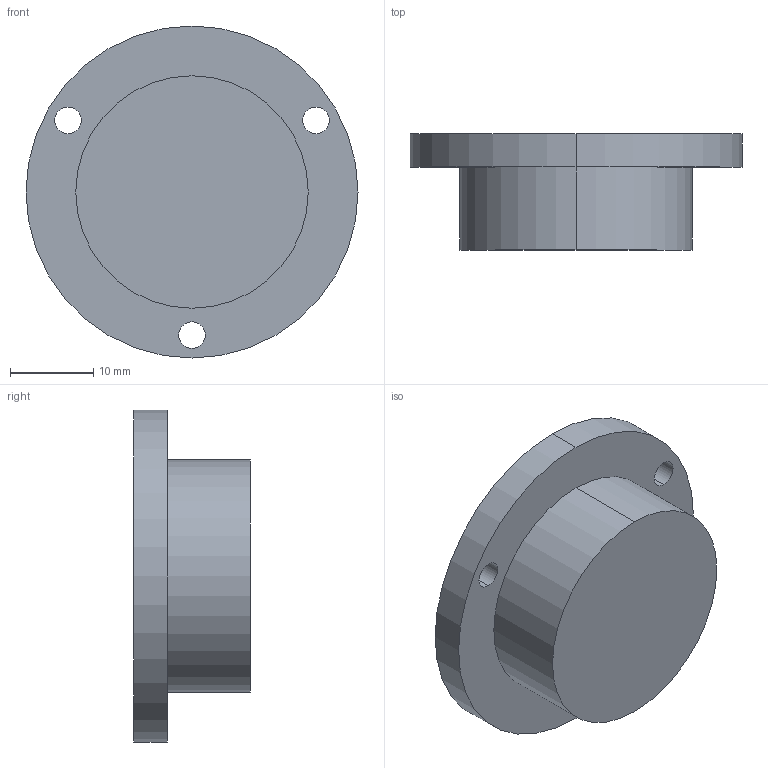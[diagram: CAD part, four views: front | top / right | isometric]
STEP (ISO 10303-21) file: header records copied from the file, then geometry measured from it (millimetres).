
FILE_DESCRIPTION (( 'STEP AP214' ), '1' );
FILE_NAME ('2277-ALS-40-K-30-B.step', '2020-03-26T09:48:29', ( '' ), ( '' ), 'SwSTEP 2.0', 'SolidWorks 2019', '' );
FILE_SCHEMA (( 'AUTOMOTIVE_DESIGN' ));
Length unit declared in the file: millimetre
Products named in the file (1): 2277-ALS-40-K-30-B
Bounding box: 40 x 14 x 40 mm (x, y, z)
Volume: 10626.4 mm3; surface area: 4087.6 mm2
Topology: 1 solids, 1 shells, 28 faces, 60 edges, 38 vertices
Faces by surface type: cylinder 18, plane 6, torus 2, cone 2
Entity records: 855 total; most frequent: DIRECTION 158, CARTESIAN_POINT 127, ORIENTED_EDGE 120, AXIS2_PLACEMENT_3D 69, EDGE_CURVE 60, CIRCLE 40, VERTEX_POINT 38, EDGE_LOOP 38
